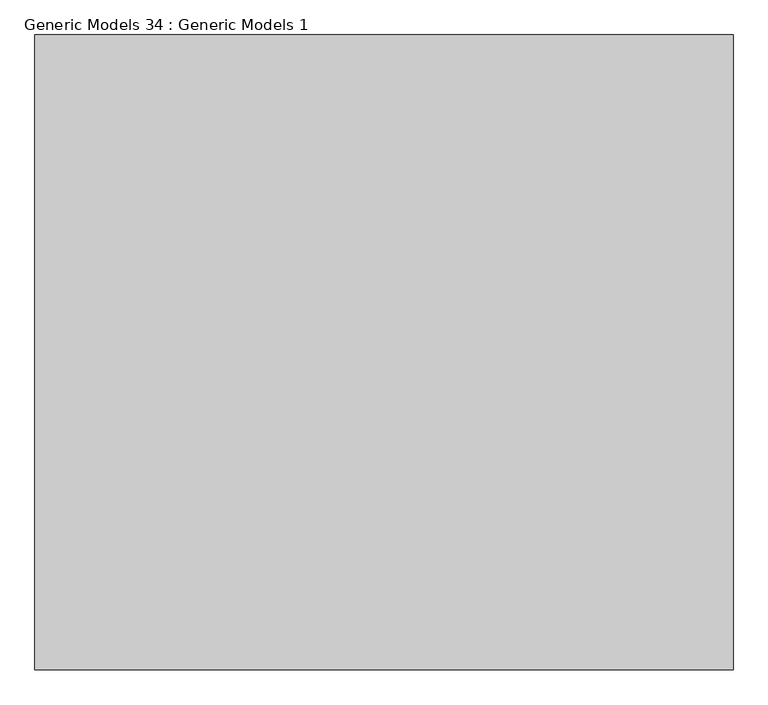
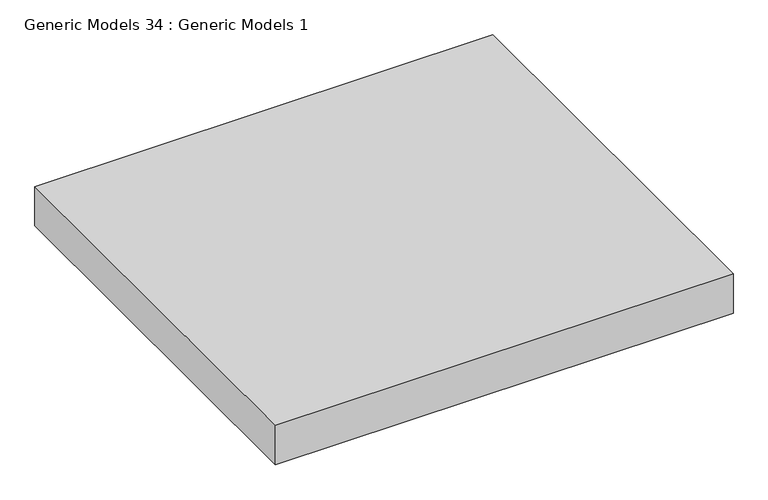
"""IFC4 building model written with IfcOpenShell, lengths in millimetres: proxy geometry, Generic Models 34 : Generic Models 1."""

import ifcopenshell
import ifcopenshell.guid

model = None  # the IFC model being written
_history = None  # IfcOwnerHistory: only IFC2X3 demands one
_inside = {}  # id of a spatial element -> (the spatial element, [elements in it])
_under = {}  # id of a project, library or spatial element -> (it, [spatial elements below it])
_declared = {}  # id of a project -> (the project, [libraries it declares])
_typed = {}  # id of a type object -> (the type object, [elements of that type])
_made_of = {}  # id of a material, layer set ... -> (it, [elements and type objects made of it])


def new_model(schema):
    """Start an empty IFC model of exactly this schema.

    Asked for "IFC4X3", IfcOpenShell would pick the latest addendum, in which some entities
    have other attributes; the version numbers below select the first issue.
    IFC2X3 requires an IfcOwnerHistory on every rooted entity: one is made here for all.
    """
    global model, _history
    if schema == "IFC4X3":
        model = ifcopenshell.file(schema_version=(4, 3, 0, 0))
    else:
        model = ifcopenshell.file(schema=schema)
    _inside.clear()
    _under.clear()
    _declared.clear()
    _typed.clear()
    _made_of.clear()
    _history = None
    if model.schema == "IFC2X3":
        org = make("IfcOrganization", Name="unknown")
        user = make(
            "IfcPersonAndOrganization",
            ThePerson=make("IfcPerson", FamilyName="unknown"),
            TheOrganization=org,
        )
        app = make(
            "IfcApplication",
            ApplicationDeveloper=org,
            Version="unknown",
            ApplicationFullName="unknown",
            ApplicationIdentifier="unknown",
        )
        _history = make(
            "IfcOwnerHistory",
            OwningUser=user,
            OwningApplication=app,
            ChangeAction="ADDED",
            CreationDate=0,
        )
    return model


def make(cls, **values):
    """One entity of the class cls with the attributes given. An attribute that is None is left unset."""
    return model.create_entity(
        cls, **{name: value for name, value in values.items() if value is not None}
    )


def rooted(cls, **values):
    """An entity with a GlobalId (a new one), such as an element, a storey or a relation."""
    return make(cls, GlobalId=ifcopenshell.guid.new(), OwnerHistory=_history, **values)


def si_unit(unit_type, name, prefix=None):
    """IfcSIUnit, for example si_unit("LENGTHUNIT", "METRE", prefix="MILLI")."""
    return make("IfcSIUnit", UnitType=unit_type, Prefix=prefix, Name=name)


def assignment(units):
    """IfcUnitAssignment: the units of a project."""
    return None if units is None else make("IfcUnitAssignment", Units=units)


def point(xyz):
    """IfcCartesianPoint."""
    return None if xyz is None else make("IfcCartesianPoint", Coordinates=xyz)


def direction(xyz):
    """IfcDirection."""
    return None if xyz is None else make("IfcDirection", DirectionRatios=xyz)


def frame(location, z_axis=None, x_axis=None):
    """IfcAxis2Placement3D, a coordinate frame: its origin and axes. An axis left out is left unset."""
    return make(
        "IfcAxis2Placement3D",
        Location=point(location),
        Axis=direction(z_axis),
        RefDirection=direction(x_axis),
    )


def origin():
    """The frame at (0, 0, 0) with its axes left unset."""
    return frame((0.0, 0.0, 0.0))


def origin_with_axes():
    """The frame at (0, 0, 0) with the z axis (0, 0, 1) and the x axis (1, 0, 0) written out."""
    return frame((0.0, 0.0, 0.0), z_axis=(0.0, 0.0, 1.0), x_axis=(1.0, 0.0, 0.0))


def place(relative_to, where):
    """IfcLocalPlacement: puts the frame where relative to a parent placement (None: the world)."""
    return make(
        "IfcLocalPlacement", PlacementRelTo=relative_to, RelativePlacement=where
    )


def context(
    kind, dimensions, precision=None, world=None, true_north=None, identifier=None
):
    """IfcGeometricRepresentationContext, for example the 3D "Model" context."""
    return make(
        "IfcGeometricRepresentationContext",
        ContextIdentifier=identifier,
        ContextType=kind,
        CoordinateSpaceDimension=dimensions,
        Precision=precision,
        WorldCoordinateSystem=world,
        TrueNorth=true_north,
    )


def project(units=None, contexts=None):
    """IfcProject with its units and contexts."""
    return rooted(
        "IfcProject",
        Name="project",
        RepresentationContexts=contexts,
        UnitsInContext=assignment(units),
    )


def spatial(cls, under=None, at=None, **own):
    """A site, building, storey or space (cls), placed at a placement, below another one or the project."""
    s = rooted(cls, ObjectPlacement=at, **own)
    if under is not None:
        _under.setdefault(under.id(), (under, []))[1].append(s)
    return s


def polyline(points):
    """IfcPolyline through the points."""
    return make("IfcPolyline", Points=[point(p) for p in points])


def outline(outer, holes=None, kind="AREA"):
    """IfcArbitraryClosedProfileDef: a profile drawn as a closed curve; with holes, ...WithVoids."""
    if holes is None:
        return make("IfcArbitraryClosedProfileDef", ProfileType=kind, OuterCurve=outer)
    return make(
        "IfcArbitraryProfileDefWithVoids",
        ProfileType=kind,
        OuterCurve=outer,
        InnerCurves=holes,
    )


def extrude(swept, where, along, depth):
    """IfcExtrudedAreaSolid: the profile swept, set in the frame where, extruded along a direction by depth."""
    return make(
        "IfcExtrudedAreaSolid",
        SweptArea=swept,
        Position=where,
        ExtrudedDirection=direction(along),
        Depth=depth,
    )


def shape(context_of_items, identifier, shape_type, items):
    """IfcShapeRepresentation: the items that make up one representation, for example the "Body"."""
    return make(
        "IfcShapeRepresentation",
        ContextOfItems=context_of_items,
        RepresentationIdentifier=identifier,
        RepresentationType=shape_type,
        Items=items,
    )


def source(mapping_origin, context_of_items, identifier, shape_type, items):
    """IfcRepresentationMap: a shape defined once, which mapped items show again and again."""
    return make(
        "IfcRepresentationMap",
        MappingOrigin=mapping_origin,
        MappedRepresentation=shape(context_of_items, identifier, shape_type, items),
    )


def transform(
    local_origin,
    x_axis=None,
    y_axis=None,
    z_axis=None,
    scale=None,
    scale2=None,
    scale3=None,
    uniform=True,
):
    """IfcCartesianTransformationOperator3D, or its non-uniform kind. x_axis, y_axis, z_axis: its Axis1, 2, 3."""
    if uniform:
        return make(
            "IfcCartesianTransformationOperator3D",
            Axis1=direction(x_axis),
            Axis2=direction(y_axis),
            LocalOrigin=point(local_origin),
            Scale=scale,
            Axis3=direction(z_axis),
        )
    return make(
        "IfcCartesianTransformationOperator3DnonUniform",
        Axis1=direction(x_axis),
        Axis2=direction(y_axis),
        LocalOrigin=point(local_origin),
        Scale=scale,
        Axis3=direction(z_axis),
        Scale2=scale2,
        Scale3=scale3,
    )


def mapped(mapping_source, mapping_target):
    """IfcMappedItem: shows the shape of a source again, moved by a transform."""
    return make(
        "IfcMappedItem", MappingSource=mapping_source, MappingTarget=mapping_target
    )


def made_of(thing, what):
    """Note that an element or type object is made of a material, layer set ...; save() writes the relation."""
    if what is not None:
        _made_of.setdefault(what.id(), (what, []))[1].append(thing)
    return thing


def element(
    cls,
    number,
    at=None,
    inside=None,
    cuts=None,
    type_object=None,
    material=None,
    context=None,
    identifier="Body",
    shape_type=None,
    held_by="IfcProductDefinitionShape",
    body=None,
    shapes=None,
    **own,
):
    """One element of the class cls, such as IfcWall. Its Tag is "e" and its number.

    at: its placement. inside: the storey or other place that contains it. cuts: it is an
    opening in that element (IfcRelVoidsElement). A single representation is given by context,
    identifier, shape_type and body (its items); several are given by shapes. held_by: the class
    of the entity that holds the representations. save() writes the other relations.
    """
    e = rooted(cls, Tag="e%d" % number, ObjectPlacement=at, **own)
    if body is not None:
        shapes = [shape(context, identifier, shape_type, body)]
    if shapes is not None:
        e.Representation = make(held_by, Representations=shapes)
    if inside is not None:
        _inside.setdefault(inside.id(), (inside, []))[1].append(e)
    if cuts is not None:
        rooted(
            "IfcRelVoidsElement", RelatingBuildingElement=cuts, RelatedOpeningElement=e
        )
    if type_object is not None:
        _typed.setdefault(type_object.id(), (type_object, []))[1].append(e)
    return made_of(e, material)


def aggregate(whole, parts):
    """IfcRelAggregates: a whole, such as a stair, and the parts it consists of."""
    return rooted("IfcRelAggregates", RelatingObject=whole, RelatedObjects=parts)


def save(model, path):
    """Write the relations noted so far, then the file.

    IfcRelAggregates (storeys below a building ...), IfcRelContainedInSpatialStructure (elements
    in a storey), IfcRelDefinesByType, IfcRelAssociatesMaterial and IfcRelDeclares: one each for
    every whole, place, type object, material and project.
    """
    for whole, parts in _under.values():
        aggregate(whole, parts)
    for where, things in _inside.values():
        rooted(
            "IfcRelContainedInSpatialStructure",
            RelatedElements=things,
            RelatingStructure=where,
        )
    for kind, things in _typed.values():
        rooted("IfcRelDefinesByType", RelatedObjects=things, RelatingType=kind)
    for what, things in _made_of.values():
        rooted("IfcRelAssociatesMaterial", RelatedObjects=things, RelatingMaterial=what)
    for by, libraries in _declared.values():
        rooted("IfcRelDeclares", RelatingContext=by, RelatedDefinitions=libraries)
    model.write(path)


def generic_models_34_generic_models_1_5e9e2f8d(model_context):
    return source(origin(), model_context, "Body", "SweptSolid", [
        extrude(outline(polyline([(4437.1851171, -12286.5772826), (4437.1851171, -11286.5772826), (5537.1851171, -11286.5772826), (5537.1851171, -12286.5772826), (4437.1851171, -12286.5772826)])), origin_with_axes(), (0.0, 0.0, 1.0), 100.0),
    ])


if __name__ == "__main__":
    model = new_model("IFC4")
    model_context = context("Model", 3, world=origin())
    ifc_project = project(units=[si_unit("LENGTHUNIT", "METRE", prefix="MILLI")], contexts=[model_context])
    site = spatial("IfcSite", under=ifc_project)
    building = spatial("IfcBuilding", under=site)
    placement = place(None, origin())
    generic_models_34_generic_models_1_shape = generic_models_34_generic_models_1_5e9e2f8d(model_context)
    element("IfcBuildingElementProxy", 1, Name="Generic Models 34 : Generic Models 1", ObjectType="Generic Models 34 : Generic Models 1", at=placement, inside=building, context=model_context, shape_type="MappedRepresentation", body=[
        mapped(generic_models_34_generic_models_1_shape, transform((0.0, 0.0, 0.0), x_axis=(1.0, 0.0, 0.0), y_axis=(0.0, 1.0, 0.0), z_axis=(0.0, 0.0, 1.0))),
    ])
    save(model, "model.ifc")
